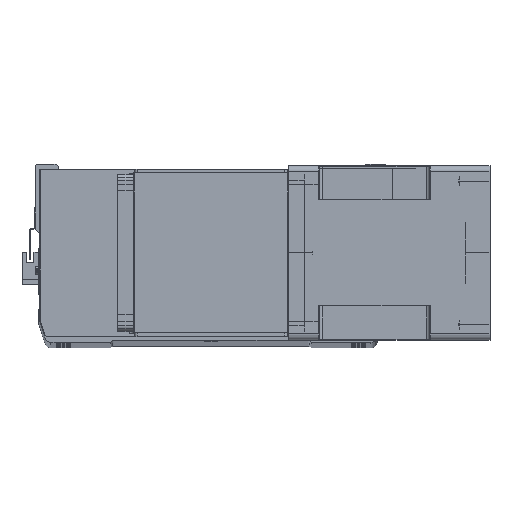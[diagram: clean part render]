
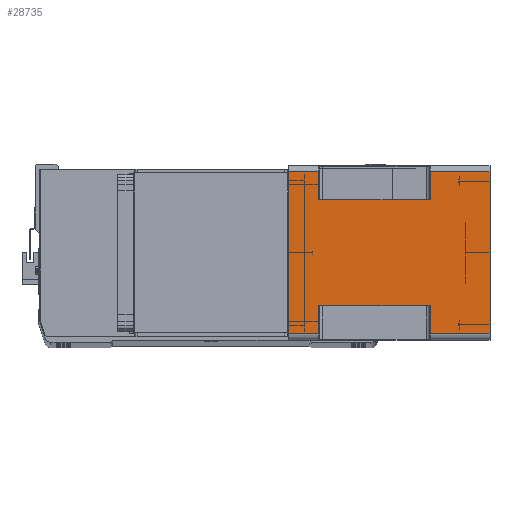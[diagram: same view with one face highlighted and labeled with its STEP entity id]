
A CAD part, top view. The second image highlights one B-rep face of the part: STEP entity #28735.
In plain terms, the highlighted planar face has unit normal (0, 0, 1) as drawn and (1, 0, 0) by its records, which use the part's own axes.
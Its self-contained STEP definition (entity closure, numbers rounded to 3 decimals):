
#9 = VERTEX_POINT ( 'NONE', #2468 ) ;
#71 = CARTESIAN_POINT ( 'NONE',  ( 71., 66., -164. ) ) ;
#316 = CARTESIAN_POINT ( 'NONE',  ( 71., -43., -164. ) ) ;
#696 = AXIS2_PLACEMENT_3D ( 'NONE', #27836, #1555, #9792 ) ;
#976 = FACE_OUTER_BOUND ( 'NONE', #9686, .T. ) ;
#1132 = CARTESIAN_POINT ( 'NONE',  ( 71., 66., -164. ) ) ;
#1555 = DIRECTION ( 'NONE',  ( 1., 0., 0. ) ) ;
#1764 = VECTOR ( 'NONE', #6004, 1000. ) ;
#1899 = PLANE ( 'NONE',  #696 ) ;
#2346 = CARTESIAN_POINT ( 'NONE',  ( 71., -43., -24.5 ) ) ;
#2468 = CARTESIAN_POINT ( 'NONE',  ( 71., -66., -164. ) ) ;
#3038 = LINE ( 'NONE', #32580, #10003 ) ;
#3655 = LINE ( 'NONE', #10941, #7752 ) ;
#3903 = CARTESIAN_POINT ( 'NONE',  ( 71., 43., -115.5 ) ) ;
#4655 = LINE ( 'NONE', #16969, #12817 ) ;
#5256 = ORIENTED_EDGE ( 'NONE', *, *, #17889, .F. ) ;
#5627 = CARTESIAN_POINT ( 'NONE',  ( 71., -66., -164. ) ) ;
#6004 = DIRECTION ( 'NONE',  ( 0., 0., 1. ) ) ;
#6343 = CARTESIAN_POINT ( 'NONE',  ( 71., 66., 0. ) ) ;
#7338 = DIRECTION ( 'NONE',  ( 0., -1., 0. ) ) ;
#7362 = EDGE_CURVE ( 'NONE', #9445, #18003, #16718, .T. ) ;
#7752 = VECTOR ( 'NONE', #31872, 1000. ) ;
#8358 = EDGE_CURVE ( 'NONE', #20783, #32635, #26443, .T. ) ;
#8454 = CARTESIAN_POINT ( 'NONE',  ( 71., -66., -24.5 ) ) ;
#8810 = EDGE_CURVE ( 'NONE', #18003, #23812, #3038, .T. ) ;
#8995 = CARTESIAN_POINT ( 'NONE',  ( 71., 43., -24.5 ) ) ;
#9370 = CARTESIAN_POINT ( 'NONE',  ( 71., -66., -115.5 ) ) ;
#9445 = VERTEX_POINT ( 'NONE', #8995 ) ;
#9686 = EDGE_LOOP ( 'NONE', ( #32418, #28789, #22905, #22520, #14715, #29969, #13650, #24675, #13927, #12669, #5256, #21617 ) ) ;
#9743 = CARTESIAN_POINT ( 'NONE',  ( 71., 66., -115.5 ) ) ;
#9792 = DIRECTION ( 'NONE',  ( 0., 1., 0. ) ) ;
#10003 = VECTOR ( 'NONE', #14083, 1000. ) ;
#10941 = CARTESIAN_POINT ( 'NONE',  ( 71., -66., -164. ) ) ;
#12669 = ORIENTED_EDGE ( 'NONE', *, *, #20764, .F. ) ;
#12817 = VECTOR ( 'NONE', #7338, 1000. ) ;
#13650 = ORIENTED_EDGE ( 'NONE', *, *, #29443, .F. ) ;
#13927 = ORIENTED_EDGE ( 'NONE', *, *, #8810, .T. ) ;
#14083 = DIRECTION ( 'NONE',  ( 0., 0., 1. ) ) ;
#14475 = EDGE_CURVE ( 'NONE', #9, #20783, #17443, .T. ) ;
#14715 = ORIENTED_EDGE ( 'NONE', *, *, #8358, .T. ) ;
#15021 = EDGE_CURVE ( 'NONE', #9, #32034, #22709, .T. ) ;
#15121 = EDGE_CURVE ( 'NONE', #32635, #21184, #21444, .T. ) ;
#15265 = CARTESIAN_POINT ( 'NONE',  ( 71., -66., -24.5 ) ) ;
#15910 = DIRECTION ( 'NONE',  ( 0., 1., 0. ) ) ;
#16667 = VECTOR ( 'NONE', #20656, 1000. ) ;
#16718 = LINE ( 'NONE', #8454, #26183 ) ;
#16788 = EDGE_CURVE ( 'NONE', #22842, #32034, #4655, .T. ) ;
#16969 = CARTESIAN_POINT ( 'NONE',  ( 71., -66., -115.5 ) ) ;
#17443 = LINE ( 'NONE', #5627, #23204 ) ;
#17889 = EDGE_CURVE ( 'NONE', #25398, #25094, #3655, .T. ) ;
#18003 = VERTEX_POINT ( 'NONE', #19315 ) ;
#18165 = VECTOR ( 'NONE', #27541, 1000. ) ;
#18472 = DIRECTION ( 'NONE',  ( 0., 0., -1. ) ) ;
#18545 = DIRECTION ( 'NONE',  ( 0., 1., 0. ) ) ;
#19022 = EDGE_CURVE ( 'NONE', #22842, #24112, #33864, .T. ) ;
#19315 = CARTESIAN_POINT ( 'NONE',  ( 71., 66., -24.5 ) ) ;
#19357 = VECTOR ( 'NONE', #18545, 1000. ) ;
#19413 = CARTESIAN_POINT ( 'NONE',  ( 71., -43., -115.5 ) ) ;
#19883 = VECTOR ( 'NONE', #26948, 1000. ) ;
#20656 = DIRECTION ( 'NONE',  ( 0., 1., 0. ) ) ;
#20764 = EDGE_CURVE ( 'NONE', #25094, #23812, #32149, .T. ) ;
#20783 = VERTEX_POINT ( 'NONE', #71 ) ;
#21184 = VERTEX_POINT ( 'NONE', #31029 ) ;
#21444 = LINE ( 'NONE', #3903, #18165 ) ;
#21470 = VECTOR ( 'NONE', #32378, 1000. ) ;
#21617 = ORIENTED_EDGE ( 'NONE', *, *, #26495, .T. ) ;
#21810 = VECTOR ( 'NONE', #18472, 1000. ) ;
#22520 = ORIENTED_EDGE ( 'NONE', *, *, #14475, .T. ) ;
#22709 = LINE ( 'NONE', #24702, #1764 ) ;
#22842 = VERTEX_POINT ( 'NONE', #19413 ) ;
#22905 = ORIENTED_EDGE ( 'NONE', *, *, #15021, .F. ) ;
#23204 = VECTOR ( 'NONE', #31879, 1000. ) ;
#23812 = VERTEX_POINT ( 'NONE', #6343 ) ;
#24112 = VERTEX_POINT ( 'NONE', #33900 ) ;
#24675 = ORIENTED_EDGE ( 'NONE', *, *, #7362, .T. ) ;
#24702 = CARTESIAN_POINT ( 'NONE',  ( 71., -66., -164. ) ) ;
#25094 = VERTEX_POINT ( 'NONE', #26565 ) ;
#25398 = VERTEX_POINT ( 'NONE', #15265 ) ;
#26126 = LINE ( 'NONE', #2346, #16667 ) ;
#26183 = VECTOR ( 'NONE', #15910, 1000. ) ;
#26443 = LINE ( 'NONE', #1132, #21470 ) ;
#26495 = EDGE_CURVE ( 'NONE', #25398, #24112, #26126, .T. ) ;
#26565 = CARTESIAN_POINT ( 'NONE',  ( 71., -66., 0. ) ) ;
#26948 = DIRECTION ( 'NONE',  ( 0., 0., 1. ) ) ;
#27541 = DIRECTION ( 'NONE',  ( 0., -1., 0. ) ) ;
#27836 = CARTESIAN_POINT ( 'NONE',  ( 71., -66., -164. ) ) ;
#28735 = ADVANCED_FACE ( 'NONE', ( #976 ), #1899, .T. ) ;
#28789 = ORIENTED_EDGE ( 'NONE', *, *, #16788, .T. ) ;
#28990 = CARTESIAN_POINT ( 'NONE',  ( 71., -66., 0. ) ) ;
#29443 = EDGE_CURVE ( 'NONE', #9445, #21184, #32951, .T. ) ;
#29969 = ORIENTED_EDGE ( 'NONE', *, *, #15121, .T. ) ;
#31029 = CARTESIAN_POINT ( 'NONE',  ( 71., 43., -115.5 ) ) ;
#31872 = DIRECTION ( 'NONE',  ( 0., 0., 1. ) ) ;
#31879 = DIRECTION ( 'NONE',  ( 0., 1., 0. ) ) ;
#31933 = CARTESIAN_POINT ( 'NONE',  ( 71., 43., -164. ) ) ;
#32034 = VERTEX_POINT ( 'NONE', #9370 ) ;
#32149 = LINE ( 'NONE', #28990, #19357 ) ;
#32378 = DIRECTION ( 'NONE',  ( 0., 0., 1. ) ) ;
#32418 = ORIENTED_EDGE ( 'NONE', *, *, #19022, .F. ) ;
#32580 = CARTESIAN_POINT ( 'NONE',  ( 71., 66., -164. ) ) ;
#32635 = VERTEX_POINT ( 'NONE', #9743 ) ;
#32951 = LINE ( 'NONE', #31933, #21810 ) ;
#33864 = LINE ( 'NONE', #316, #19883 ) ;
#33900 = CARTESIAN_POINT ( 'NONE',  ( 71., -43., -24.5 ) ) ;
